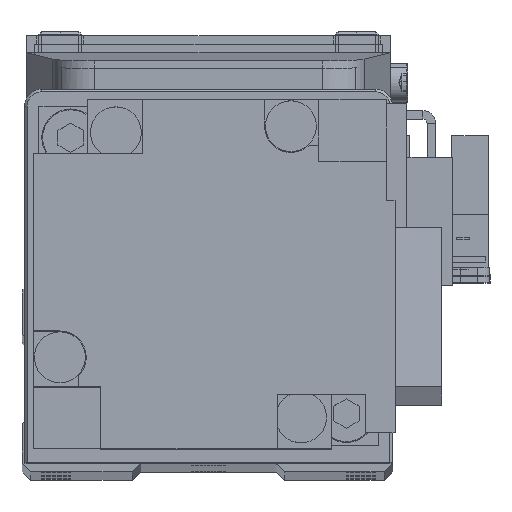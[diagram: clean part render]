
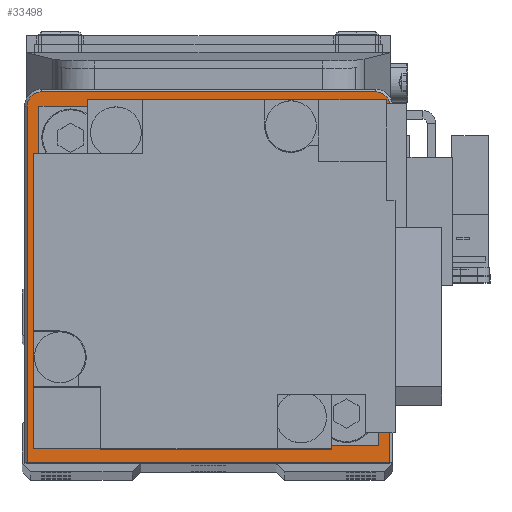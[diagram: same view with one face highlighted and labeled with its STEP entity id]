
A CAD part, top view. The second image highlights one B-rep face of the part: STEP entity #33498.
In plain terms, the highlighted planar face has unit normal (0, 0, 1).
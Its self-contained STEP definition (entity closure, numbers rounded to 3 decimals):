
#3151 = CARTESIAN_POINT ( 'NONE',  ( -21.4, -6.974, 359. ) ) ;
#4547 = CIRCLE ( 'NONE', #47517, 10. ) ;
#5027 = LINE ( 'NONE', #20982, #35180 ) ;
#5086 = AXIS2_PLACEMENT_3D ( 'NONE', #76555, #45129, #38717 ) ;
#7264 = DIRECTION ( 'NONE',  ( 0., 0., 1. ) ) ;
#7466 = ORIENTED_EDGE ( 'NONE', *, *, #45650, .F. ) ;
#7660 = DIRECTION ( 'NONE',  ( -1., 0., 0. ) ) ;
#9639 = VERTEX_POINT ( 'NONE', #3151 ) ;
#9761 = VECTOR ( 'NONE', #31398, 1000. ) ;
#10286 = CARTESIAN_POINT ( 'NONE',  ( 10., 15.026, 359. ) ) ;
#10436 = ORIENTED_EDGE ( 'NONE', *, *, #37326, .T. ) ;
#11504 = VECTOR ( 'NONE', #7660, 1000. ) ;
#11678 = DIRECTION ( 'NONE',  ( 1., 0., 0. ) ) ;
#12236 = AXIS2_PLACEMENT_3D ( 'NONE', #14654, #14932, #79118 ) ;
#13521 = VERTEX_POINT ( 'NONE', #70020 ) ;
#14162 = CARTESIAN_POINT ( 'NONE',  ( -19.7, 36.726, 359. ) ) ;
#14296 = CARTESIAN_POINT ( 'NONE',  ( -10., 15.026, 359. ) ) ;
#14654 = CARTESIAN_POINT ( 'NONE',  ( 0., 15.026, 359. ) ) ;
#14788 = CIRCLE ( 'NONE', #5086, 1.7 ) ;
#14932 = DIRECTION ( 'NONE',  ( 0., 0., 1. ) ) ;
#15597 = VERTEX_POINT ( 'NONE', #10286 ) ;
#15844 = CARTESIAN_POINT ( 'NONE',  ( -21.4, 35.026, 359. ) ) ;
#17412 = ORIENTED_EDGE ( 'NONE', *, *, #66335, .T. ) ;
#19727 = VERTEX_POINT ( 'NONE', #14296 ) ;
#19804 = ORIENTED_EDGE ( 'NONE', *, *, #61795, .T. ) ;
#20512 = DIRECTION ( 'NONE',  ( 1., 0., 0. ) ) ;
#20982 = CARTESIAN_POINT ( 'NONE',  ( -21.4, -6.974, 359. ) ) ;
#22092 = CARTESIAN_POINT ( 'NONE',  ( -21.7, -6.974, 359. ) ) ;
#22690 = DIRECTION ( 'NONE',  ( 1., 0., 0. ) ) ;
#25279 = CARTESIAN_POINT ( 'NONE',  ( 21.4, 35.026, 359. ) ) ;
#29079 = VECTOR ( 'NONE', #22690, 1000. ) ;
#29937 = CARTESIAN_POINT ( 'NONE',  ( 21.4, -6.974, 359. ) ) ;
#31398 = DIRECTION ( 'NONE',  ( 0., 1., 0. ) ) ;
#33498 = ADVANCED_FACE ( 'NONE', ( #76570, #73586 ), #50654, .T. ) ;
#35180 = VECTOR ( 'NONE', #65831, 1000. ) ;
#35181 = VERTEX_POINT ( 'NONE', #14162 ) ;
#35222 = EDGE_LOOP ( 'NONE', ( #7466, #63981 ) ) ;
#35931 = ORIENTED_EDGE ( 'NONE', *, *, #68886, .T. ) ;
#37326 = EDGE_CURVE ( 'NONE', #35181, #50453, #45471, .T. ) ;
#38400 = DIRECTION ( 'NONE',  ( 1., 0., 0. ) ) ;
#38717 = DIRECTION ( 'NONE',  ( 1., 0., 0. ) ) ;
#39715 = CARTESIAN_POINT ( 'NONE',  ( -19.7, 36.726, 359. ) ) ;
#42602 = LINE ( 'NONE', #39715, #11504 ) ;
#44514 = VERTEX_POINT ( 'NONE', #54722 ) ;
#45129 = DIRECTION ( 'NONE',  ( 0., 0., 1. ) ) ;
#45471 = CIRCLE ( 'NONE', #46649, 1.7 ) ;
#45650 = EDGE_CURVE ( 'NONE', #19727, #15597, #4547, .T. ) ;
#46649 = AXIS2_PLACEMENT_3D ( 'NONE', #75366, #57703, #38400 ) ;
#47517 = AXIS2_PLACEMENT_3D ( 'NONE', #65918, #7264, #20512 ) ;
#50453 = VERTEX_POINT ( 'NONE', #15844 ) ;
#50654 = PLANE ( 'NONE',  #60196 ) ;
#50743 = EDGE_LOOP ( 'NONE', ( #35931, #19804, #64102, #17412, #10436, #51479 ) ) ;
#51479 = ORIENTED_EDGE ( 'NONE', *, *, #68697, .T. ) ;
#54514 = EDGE_CURVE ( 'NONE', #13521, #44514, #14788, .T. ) ;
#54722 = CARTESIAN_POINT ( 'NONE',  ( 19.7, 36.726, 359. ) ) ;
#56522 = CARTESIAN_POINT ( 'NONE',  ( 0., 15.026, 359. ) ) ;
#56562 = CIRCLE ( 'NONE', #12236, 10. ) ;
#57703 = DIRECTION ( 'NONE',  ( 0., 0., 1. ) ) ;
#60196 = AXIS2_PLACEMENT_3D ( 'NONE', #56522, #81753, #11678 ) ;
#61795 = EDGE_CURVE ( 'NONE', #65909, #13521, #73993, .T. ) ;
#63981 = ORIENTED_EDGE ( 'NONE', *, *, #70525, .F. ) ;
#64102 = ORIENTED_EDGE ( 'NONE', *, *, #54514, .T. ) ;
#65831 = DIRECTION ( 'NONE',  ( 0., -1., 0. ) ) ;
#65909 = VERTEX_POINT ( 'NONE', #29937 ) ;
#65918 = CARTESIAN_POINT ( 'NONE',  ( 0., 15.026, 359. ) ) ;
#66335 = EDGE_CURVE ( 'NONE', #44514, #35181, #42602, .T. ) ;
#68697 = EDGE_CURVE ( 'NONE', #50453, #9639, #5027, .T. ) ;
#68886 = EDGE_CURVE ( 'NONE', #9639, #65909, #80175, .T. ) ;
#70020 = CARTESIAN_POINT ( 'NONE',  ( 21.4, 35.026, 359. ) ) ;
#70525 = EDGE_CURVE ( 'NONE', #15597, #19727, #56562, .T. ) ;
#73586 = FACE_BOUND ( 'NONE', #35222, .T. ) ;
#73993 = LINE ( 'NONE', #25279, #9761 ) ;
#75366 = CARTESIAN_POINT ( 'NONE',  ( -19.7, 35.026, 359. ) ) ;
#76555 = CARTESIAN_POINT ( 'NONE',  ( 19.7, 35.026, 359. ) ) ;
#76570 = FACE_OUTER_BOUND ( 'NONE', #50743, .T. ) ;
#79118 = DIRECTION ( 'NONE',  ( 1., 0., 0. ) ) ;
#80175 = LINE ( 'NONE', #22092, #29079 ) ;
#81753 = DIRECTION ( 'NONE',  ( 0., 0., 1. ) ) ;
